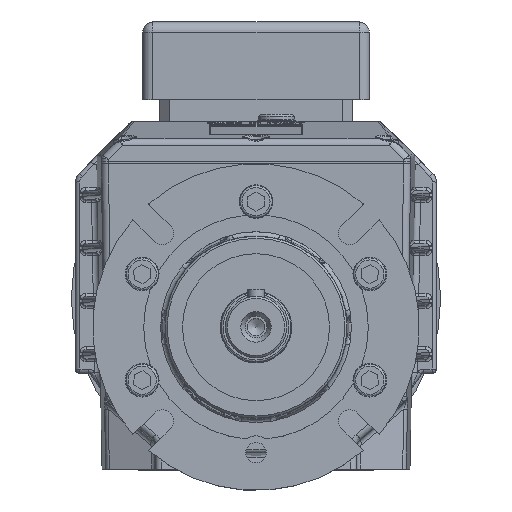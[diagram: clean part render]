
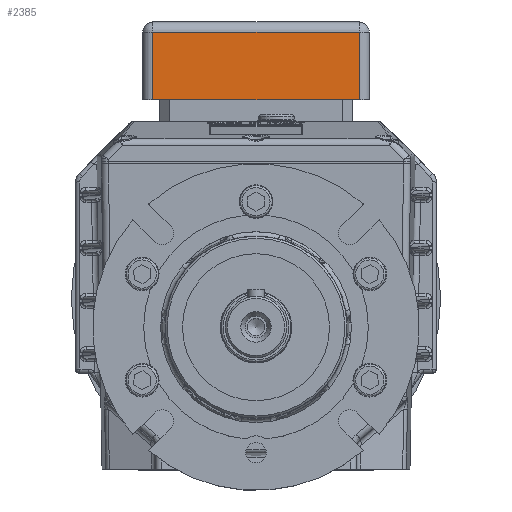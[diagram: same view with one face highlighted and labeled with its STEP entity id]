
A CAD part, top view. The second image highlights one B-rep face of the part: STEP entity #2385.
In plain terms, the highlighted planar face has unit normal (0, 0, 1).
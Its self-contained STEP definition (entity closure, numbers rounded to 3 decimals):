
#2385 = ADVANCED_FACE( '', ( #6095 ), #6096, .T. );
#6095 = FACE_OUTER_BOUND( '', #15074, .T. );
#6096 = PLANE( '', #15075 );
#15074 = EDGE_LOOP( '', ( #35460, #35461, #35462, #35463 ) );
#15075 = AXIS2_PLACEMENT_3D( '', #35464, #35465, #35466 );
#35460 = ORIENTED_EDGE( '', *, *, #47005, .T. );
#35461 = ORIENTED_EDGE( '', *, *, #47866, .T. );
#35462 = ORIENTED_EDGE( '', *, *, #47867, .T. );
#35463 = ORIENTED_EDGE( '', *, *, #47628, .T. );
#35464 = CARTESIAN_POINT( '', ( -55.5, 111.97, -264.5 ) );
#35465 = DIRECTION( '', ( 0., 0., 1. ) );
#35466 = DIRECTION( '', ( -1., 0., 0. ) );
#47005 = EDGE_CURVE( '', #53237, #53242, #53244, .T. );
#47628 = EDGE_CURVE( '', #54289, #53237, #54290, .T. );
#47866 = EDGE_CURVE( '', #53242, #54672, #54673, .T. );
#47867 = EDGE_CURVE( '', #54672, #54289, #54674, .T. );
#53237 = VERTEX_POINT( '', #62619 );
#53242 = VERTEX_POINT( '', #62625 );
#53244 = LINE( '', #62627, #62628 );
#54289 = VERTEX_POINT( '', #64484 );
#54290 = LINE( '', #64485, #64486 );
#54672 = VERTEX_POINT( '', #65444 );
#54673 = LINE( '', #65445, #65446 );
#54674 = LINE( '', #65447, #65448 );
#62619 = CARTESIAN_POINT( '', ( 50.5, 144.97, -264.5 ) );
#62625 = CARTESIAN_POINT( '', ( -50.5, 144.97, -264.5 ) );
#62627 = CARTESIAN_POINT( '', ( -55.5, 144.97, -264.5 ) );
#62628 = VECTOR( '', #75848, 1000. );
#64484 = CARTESIAN_POINT( '', ( 50.5, 111.97, -264.5 ) );
#64485 = CARTESIAN_POINT( '', ( 50.5, 111.97, -264.5 ) );
#64486 = VECTOR( '', #76741, 1000. );
#65444 = CARTESIAN_POINT( '', ( -50.5, 111.97, -264.5 ) );
#65445 = CARTESIAN_POINT( '', ( -50.5, 111.97, -264.5 ) );
#65446 = VECTOR( '', #77030, 1000. );
#65447 = CARTESIAN_POINT( '', ( -55.5, 111.97, -264.5 ) );
#65448 = VECTOR( '', #77031, 1000. );
#75848 = DIRECTION( '', ( -1., 0., 0. ) );
#76741 = DIRECTION( '', ( 0., 1., 0. ) );
#77030 = DIRECTION( '', ( 0., -1., 0. ) );
#77031 = DIRECTION( '', ( 1., 0., 0. ) );
